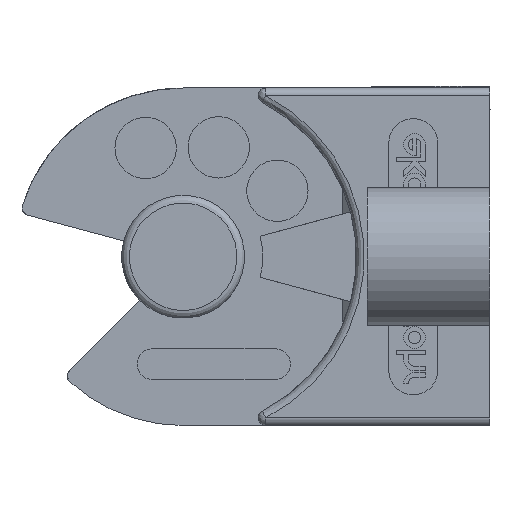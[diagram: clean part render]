
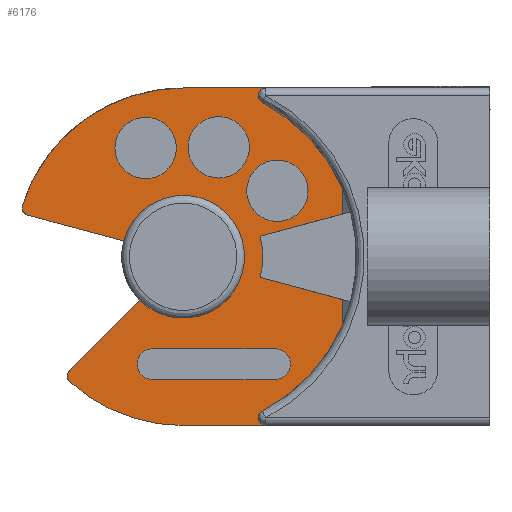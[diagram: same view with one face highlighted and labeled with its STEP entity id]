
A CAD part, left-side view. The second image highlights one B-rep face of the part: STEP entity #6176.
In plain terms, the highlighted free-form (B-spline) face has degree [1, 1] with [2, 2] control points.
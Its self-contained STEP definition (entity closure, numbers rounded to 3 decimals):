
#3356=CARTESIAN_POINT('',(174.248,189.074,-51.6));
#3357=VERTEX_POINT('',#3356);
#3364=CARTESIAN_POINT('',(168.864,189.074,-51.6));
#3365=VERTEX_POINT('',#3364);
#3366=CARTESIAN_POINT('',(168.864,189.074,-51.6));
#3367=DIRECTION('',(1.0,0.0,0.0));
#3368=VECTOR('',#3367,5.384);
#3369=LINE('',#3366,#3368);
#3370=EDGE_CURVE('',#3365,#3357,#3369,.T.);
#5349=CARTESIAN_POINT('',(169.092,188.13,-51.6));
#5350=VERTEX_POINT('',#5349);
#5351=CARTESIAN_POINT('',(168.864,188.574,-51.6));
#5352=DIRECTION('',(0.0,0.0,-1.));
#5353=DIRECTION('',(-0.456,0.89,0.0));
#5354=AXIS2_PLACEMENT_3D('',#5351,#5352,#5353);
#5355=CIRCLE('',#5354,0.5);
#5356=EDGE_CURVE('',#3365,#5350,#5355,.T.);
#5395=CARTESIAN_POINT('',(163.833,182.458,-51.6));
#5396=VERTEX_POINT('',#5395);
#5397=CARTESIAN_POINT('',(174.248,178.074,-51.6));
#5398=DIRECTION('',(0.0,0.0,1.0));
#5399=DIRECTION('',(-1.0,0.0,0.0));
#5400=AXIS2_PLACEMENT_3D('',#5397,#5398,#5399);
#5401=CIRCLE('',#5400,11.3);
#5402=EDGE_CURVE('',#5350,#5396,#5401,.T.);
#5473=CARTESIAN_POINT('',(163.833,173.691,-51.6));
#5474=VERTEX_POINT('',#5473);
#5481=CARTESIAN_POINT('',(169.092,168.019,-51.6));
#5482=VERTEX_POINT('',#5481);
#5483=CARTESIAN_POINT('',(174.248,178.074,-51.6));
#5484=DIRECTION('',(0.0,0.0,1.0));
#5485=DIRECTION('',(-1.0,0.0,0.0));
#5486=AXIS2_PLACEMENT_3D('',#5483,#5484,#5485);
#5487=CIRCLE('',#5486,11.3);
#5488=EDGE_CURVE('',#5474,#5482,#5487,.T.);
#5561=CARTESIAN_POINT('',(181.646,170.64,-51.6));
#5562=VERTEX_POINT('',#5561);
#5570=CARTESIAN_POINT('',(177.069,175.239,-51.6));
#5571=VERTEX_POINT('',#5570);
#5572=CARTESIAN_POINT('',(177.069,175.239,-51.6));
#5573=DIRECTION('',(0.705,-0.709,0.0));
#5574=VECTOR('',#5573,6.488);
#5575=LINE('',#5572,#5574);
#5576=EDGE_CURVE('',#5571,#5562,#5575,.T.);
#5617=CARTESIAN_POINT('',(181.627,169.917,-51.6));
#5618=VERTEX_POINT('',#5617);
#5625=CARTESIAN_POINT('',(181.291,170.287,-51.6));
#5626=DIRECTION('',(0.0,0.0,-1.));
#5627=DIRECTION('',(0.671,-0.742,0.0));
#5628=AXIS2_PLACEMENT_3D('',#5625,#5626,#5627);
#5629=CIRCLE('',#5628,0.5);
#5630=EDGE_CURVE('',#5562,#5618,#5629,.T.);
#5640=CARTESIAN_POINT('',(184.379,180.789,-51.6));
#5641=VERTEX_POINT('',#5640);
#5650=CARTESIAN_POINT('',(178.112,179.11,-51.6));
#5651=VERTEX_POINT('',#5650);
#5659=CARTESIAN_POINT('',(184.379,180.789,-51.6));
#5660=DIRECTION('',(-0.966,-0.259,0.0));
#5661=VECTOR('',#5660,6.488);
#5662=LINE('',#5659,#5661);
#5663=EDGE_CURVE('',#5641,#5651,#5662,.T.);
#5695=CARTESIAN_POINT('',(184.725,181.424,-51.6));
#5696=VERTEX_POINT('',#5695);
#5697=CARTESIAN_POINT('',(184.249,181.272,-51.6));
#5698=DIRECTION('',(0.0,0.0,-1.0));
#5699=DIRECTION('',(0.259,-0.966,0.0));
#5700=AXIS2_PLACEMENT_3D('',#5697,#5698,#5699);
#5701=CIRCLE('',#5700,0.5);
#5702=EDGE_CURVE('',#5696,#5641,#5701,.T.);
#5825=CARTESIAN_POINT('',(174.248,178.074,-51.6));
#5826=DIRECTION('',(0.0,0.0,-1.0));
#5827=DIRECTION('',(-1.0,0.0,0.0));
#5828=AXIS2_PLACEMENT_3D('',#5825,#5826,#5827);
#5829=CIRCLE('',#5828,4.0);
#5830=EDGE_CURVE('',#5571,#5651,#5829,.T.);
#5974=CARTESIAN_POINT('',(163.833,180.865,-51.6));
#5975=VERTEX_POINT('',#5974);
#5976=CARTESIAN_POINT('',(163.833,182.458,-51.6));
#5977=DIRECTION('',(0.0,-1.0,0.0));
#5978=VECTOR('',#5977,1.593);
#5979=LINE('',#5976,#5978);
#5980=EDGE_CURVE('',#5396,#5975,#5979,.T.);
#5997=CARTESIAN_POINT('',(163.833,175.284,-51.6));
#5998=VERTEX_POINT('',#5997);
#6005=CARTESIAN_POINT('',(163.833,175.284,-51.6));
#6006=DIRECTION('',(0.0,-1.0,0.0));
#6007=VECTOR('',#6006,1.593);
#6008=LINE('',#6005,#6007);
#6009=EDGE_CURVE('',#5998,#5474,#6008,.T.);
#6021=CARTESIAN_POINT('',(169.225,176.729,-51.6));
#6022=VERTEX_POINT('',#6021);
#6029=CARTESIAN_POINT('',(169.225,176.729,-51.6));
#6030=DIRECTION('',(-0.966,-0.259,0.0));
#6031=VECTOR('',#6030,5.582);
#6032=LINE('',#6029,#6031);
#6033=EDGE_CURVE('',#6022,#5998,#6032,.T.);
#6042=CARTESIAN_POINT('',(163.833,189.074,-51.6));
#6043=CARTESIAN_POINT('',(184.749,189.074,-51.6));
#6044=CARTESIAN_POINT('',(163.833,167.074,-51.6));
#6045=CARTESIAN_POINT('',(184.749,167.074,-51.6));
#6046=B_SPLINE_SURFACE_WITH_KNOTS('',1,1,((#6042,#6044),(#6043,#6045)),.UNSPECIFIED.,.F.,.F.,.U.,(2,2),(2,2),(0.0,20.916),(0.0,22.),.UNSPECIFIED.);
#6047=ORIENTED_EDGE('',*,*,#5980,.F.);
#6048=ORIENTED_EDGE('',*,*,#5402,.F.);
#6049=ORIENTED_EDGE('',*,*,#5356,.F.);
#6050=ORIENTED_EDGE('',*,*,#3370,.T.);
#6051=CARTESIAN_POINT('',(174.248,178.074,-51.6));
#6052=DIRECTION('',(0.0,0.0,-1.0));
#6053=DIRECTION('',(0.953,0.305,0.0));
#6054=AXIS2_PLACEMENT_3D('',#6051,#6052,#6053);
#6055=CIRCLE('',#6054,11.);
#6056=EDGE_CURVE('',#3357,#5696,#6055,.T.);
#6057=ORIENTED_EDGE('',*,*,#6056,.T.);
#6058=ORIENTED_EDGE('',*,*,#5702,.T.);
#6059=ORIENTED_EDGE('',*,*,#5663,.T.);
#6060=ORIENTED_EDGE('',*,*,#5830,.F.);
#6061=ORIENTED_EDGE('',*,*,#5576,.T.);
#6062=ORIENTED_EDGE('',*,*,#5630,.T.);
#6063=CARTESIAN_POINT('',(174.248,167.074,-51.6));
#6064=VERTEX_POINT('',#6063);
#6065=CARTESIAN_POINT('',(174.248,178.074,-51.6));
#6066=DIRECTION('',(0.0,0.0,-1.0));
#6067=DIRECTION('',(0.0,-1.0,0.0));
#6068=AXIS2_PLACEMENT_3D('',#6065,#6066,#6067);
#6069=CIRCLE('',#6068,11.0);
#6070=EDGE_CURVE('',#5618,#6064,#6069,.T.);
#6071=ORIENTED_EDGE('',*,*,#6070,.T.);
#6072=CARTESIAN_POINT('',(168.864,167.074,-51.6));
#6073=VERTEX_POINT('',#6072);
#6074=CARTESIAN_POINT('',(174.248,167.074,-51.6));
#6075=DIRECTION('',(-1.0,0.0,0.0));
#6076=VECTOR('',#6075,5.384);
#6077=LINE('',#6074,#6076);
#6078=EDGE_CURVE('',#6064,#6073,#6077,.T.);
#6079=ORIENTED_EDGE('',*,*,#6078,.T.);
#6080=CARTESIAN_POINT('',(168.864,167.574,-51.6));
#6081=DIRECTION('',(0.0,0.0,-1.0));
#6082=DIRECTION('',(0.0,1.0,0.0));
#6083=AXIS2_PLACEMENT_3D('',#6080,#6081,#6082);
#6084=CIRCLE('',#6083,0.5);
#6085=EDGE_CURVE('',#5482,#6073,#6084,.T.);
#6086=ORIENTED_EDGE('',*,*,#6085,.F.);
#6087=ORIENTED_EDGE('',*,*,#5488,.F.);
#6088=ORIENTED_EDGE('',*,*,#6009,.F.);
#6089=ORIENTED_EDGE('',*,*,#6033,.F.);
#6090=CARTESIAN_POINT('',(169.225,179.42,-51.6));
#6091=VERTEX_POINT('',#6090);
#6092=CARTESIAN_POINT('',(174.248,178.074,-51.6));
#6093=DIRECTION('',(0.0,0.0,1.0));
#6094=DIRECTION('',(0.966,-0.259,0.0));
#6095=AXIS2_PLACEMENT_3D('',#6092,#6093,#6094);
#6096=CIRCLE('',#6095,5.2);
#6097=EDGE_CURVE('',#6091,#6022,#6096,.T.);
#6098=ORIENTED_EDGE('',*,*,#6097,.F.);
#6099=CARTESIAN_POINT('',(163.833,180.865,-51.6));
#6100=DIRECTION('',(0.966,-0.259,0.0));
#6101=VECTOR('',#6100,5.582);
#6102=LINE('',#6099,#6101);
#6103=EDGE_CURVE('',#5975,#6091,#6102,.T.);
#6104=ORIENTED_EDGE('',*,*,#6103,.F.);
#6105=EDGE_LOOP('',(#6047,#6048,#6049,#6050,#6057,#6058,#6059,#6060,#6061,#6062,#6071,#6079,#6086,#6087,#6088,#6089,#6098,#6104));
#6106=FACE_OUTER_BOUND('',#6105,.T.);
#6107=CARTESIAN_POINT('',(173.93,185.207,-51.6));
#6108=VERTEX_POINT('',#6107);
#6109=CARTESIAN_POINT('',(171.93,185.207,-51.6));
#6110=DIRECTION('',(0.0,0.0,-1.0));
#6111=DIRECTION('',(-1.0,0.0,0.0));
#6112=AXIS2_PLACEMENT_3D('',#6109,#6110,#6111);
#6113=CIRCLE('',#6112,2.0);
#6114=EDGE_CURVE('',#6108,#6108,#6113,.T.);
#6115=ORIENTED_EDGE('',*,*,#6114,.F.);
#6116=EDGE_LOOP('',(#6115));
#6117=FACE_BOUND('',#6116,.T.);
#6118=CARTESIAN_POINT('',(178.69,185.166,-51.6));
#6119=VERTEX_POINT('',#6118);
#6120=CARTESIAN_POINT('',(176.69,185.166,-51.6));
#6121=DIRECTION('',(0.0,0.0,-1.0));
#6122=DIRECTION('',(-1.0,0.0,0.0));
#6123=AXIS2_PLACEMENT_3D('',#6120,#6121,#6122);
#6124=CIRCLE('',#6123,2.0);
#6125=EDGE_CURVE('',#6119,#6119,#6124,.T.);
#6126=ORIENTED_EDGE('',*,*,#6125,.F.);
#6127=EDGE_LOOP('',(#6126));
#6128=FACE_BOUND('',#6127,.T.);
#6129=CARTESIAN_POINT('',(170.104,182.376,-51.6));
#6130=VERTEX_POINT('',#6129);
#6131=CARTESIAN_POINT('',(168.104,182.376,-51.6));
#6132=DIRECTION('',(0.0,0.0,-1.0));
#6133=DIRECTION('',(-1.0,0.0,0.0));
#6134=AXIS2_PLACEMENT_3D('',#6131,#6132,#6133);
#6135=CIRCLE('',#6134,2.0);
#6136=EDGE_CURVE('',#6130,#6130,#6135,.T.);
#6137=ORIENTED_EDGE('',*,*,#6136,.F.);
#6138=EDGE_LOOP('',(#6137));
#6139=FACE_BOUND('',#6138,.T.);
#6140=CARTESIAN_POINT('',(168.248,170.074,-51.6));
#6141=VERTEX_POINT('',#6140);
#6142=CARTESIAN_POINT('',(168.248,172.074,-51.6));
#6143=VERTEX_POINT('',#6142);
#6144=CARTESIAN_POINT('',(168.248,171.074,-51.6));
#6145=DIRECTION('',(0.0,0.0,-1.0));
#6146=DIRECTION('',(0.0,-1.0,0.0));
#6147=AXIS2_PLACEMENT_3D('',#6144,#6145,#6146);
#6148=CIRCLE('',#6147,1.0);
#6149=EDGE_CURVE('',#6141,#6143,#6148,.T.);
#6150=ORIENTED_EDGE('',*,*,#6149,.F.);
#6151=CARTESIAN_POINT('',(176.248,170.074,-51.6));
#6152=VERTEX_POINT('',#6151);
#6153=CARTESIAN_POINT('',(176.248,170.074,-51.6));
#6154=DIRECTION('',(-1.0,0.0,0.0));
#6155=VECTOR('',#6154,8.0);
#6156=LINE('',#6153,#6155);
#6157=EDGE_CURVE('',#6152,#6141,#6156,.T.);
#6158=ORIENTED_EDGE('',*,*,#6157,.F.);
#6159=CARTESIAN_POINT('',(176.248,172.074,-51.6));
#6160=VERTEX_POINT('',#6159);
#6161=CARTESIAN_POINT('',(176.248,171.074,-51.6));
#6162=DIRECTION('',(0.0,0.0,-1.0));
#6163=DIRECTION('',(0.0,1.0,0.0));
#6164=AXIS2_PLACEMENT_3D('',#6161,#6162,#6163);
#6165=CIRCLE('',#6164,1.0);
#6166=EDGE_CURVE('',#6160,#6152,#6165,.T.);
#6167=ORIENTED_EDGE('',*,*,#6166,.F.);
#6168=CARTESIAN_POINT('',(168.248,172.074,-51.6));
#6169=DIRECTION('',(1.0,0.0,0.0));
#6170=VECTOR('',#6169,8.0);
#6171=LINE('',#6168,#6170);
#6172=EDGE_CURVE('',#6143,#6160,#6171,.T.);
#6173=ORIENTED_EDGE('',*,*,#6172,.F.);
#6174=EDGE_LOOP('',(#6150,#6158,#6167,#6173));
#6175=FACE_BOUND('',#6174,.T.);
#6176=ADVANCED_FACE('',(#6106,#6117,#6128,#6139,#6175),#6046,.T.);
